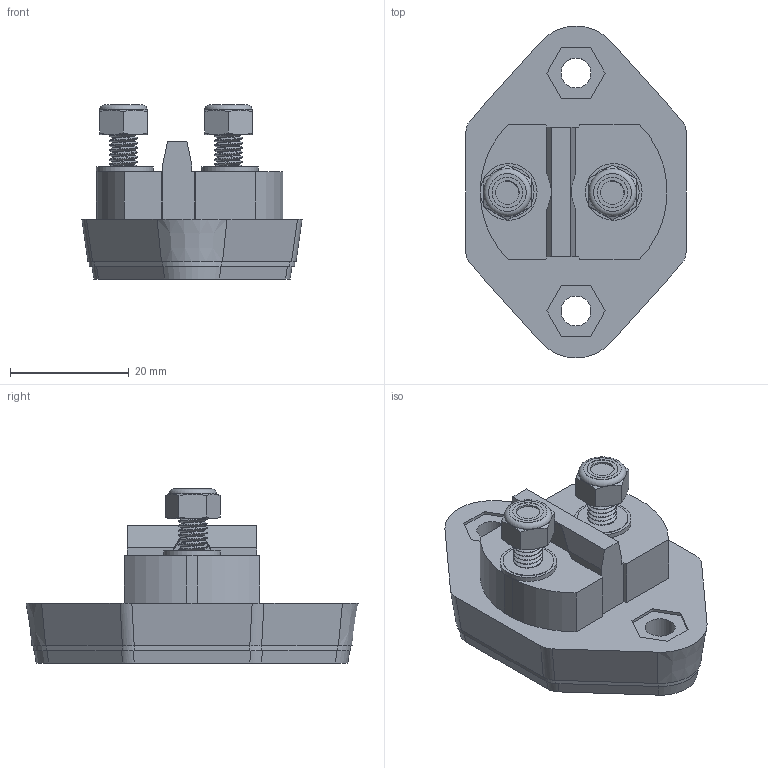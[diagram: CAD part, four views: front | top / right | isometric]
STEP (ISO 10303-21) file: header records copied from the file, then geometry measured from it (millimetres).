
FILE_DESCRIPTION(/* description */ (''),/* implementation_level */ '2;1');
FILE_NAME(/* name */ '641.stp',/* time_stamp */ '2023-10-18T08:15:30-07:00',/* author */ ('RaniahC'),/* organization */ (''),/* preprocessor_version */ 'ST-DEVELOPER v19.2',/* originating_system */ 'Autodesk Inventor 2024',/* authorisation */ '');
FILE_SCHEMA (('AUTOMOTIVE_DESIGN { 1 0 10303 214 3 1 1 }'));
Length unit declared in the file: millimetre
Products named in the file (8): 641; updated bottom; 90322A637_High-Strength Steel Threaded Rod; 90576A104_Medium-Strength Steel Nylon-Insert Locknut; Part8; Bottom Base; Rubber; Updated Upper base
Assembly tree (9 placements, depth 3):
  641
    updated bottom
      90322A637_High-Strength Steel Threaded Rod  x2
      90576A104_Medium-Strength Steel Nylon-Insert Locknut  x2
      Part8
    Bottom Base
    Rubber
    Updated Upper base
Bounding box: 37.01 x 55.81 x 29.25 mm (x, y, z)
Volume: 20380.5 mm3; surface area: 13722 mm2
Topology: 10 solids, 10 shells, 258 faces, 653 edges, 426 vertices
Faces by surface type: cylinder 107, plane 95, cone 34, bspline 16, torus 6
Full cylindrical faces by diameter (mm): 3.795 x24, 3.961 x8, 4.826 x22, 5 x8, 5.029 x2, 5.147 x2, 5.5 x4, 8.53 x2, 9.5 x2, 9.52 x2
Entity records: 10561 total; most frequent: CARTESIAN_POINT 5965, ORIENTED_EDGE 928, DIRECTION 822, EDGE_CURVE 464, VERTEX_POINT 304, AXIS2_PLACEMENT_3D 297, LINE 228, VECTOR 228
